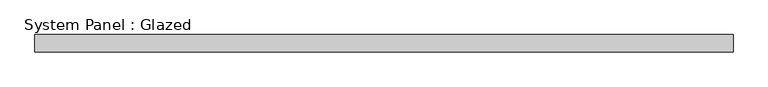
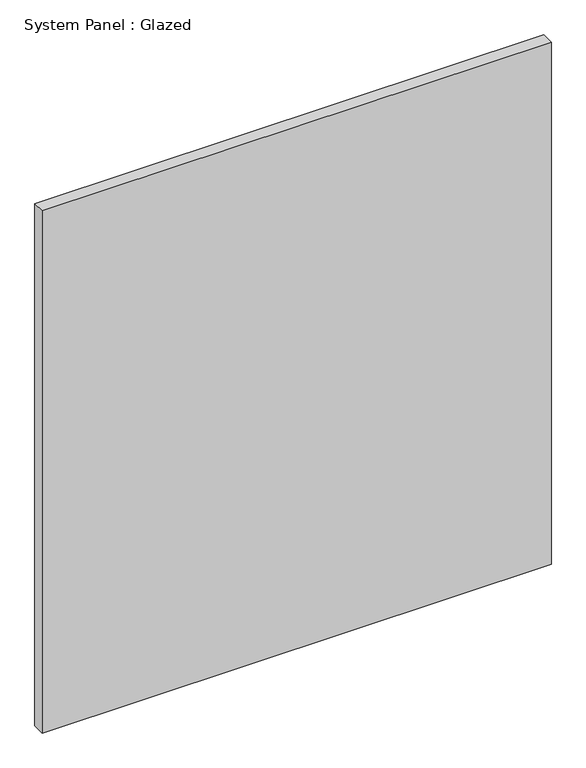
"""IFC4 building model written with IfcOpenShell, lengths in millimetres: plate geometry, System Panel : Glazed."""

from ifc_helpers import new_model, si_unit, origin, origin_with_axes, place, context, project, spatial, polyline, outline, extrude, source, transform, mapped, element, save


def system_panel_glazed_5adabceb(model_context):
    return source(origin(), model_context, "Body", "SweptSolid", [
        extrude(outline(polyline([(518.432143, -44.45), (-518.432143, -44.45), (-518.432143, -19.05), (518.432143, -19.05), (518.432143, -44.45)])), origin_with_axes(), (0.0, 0.0, 1.0), 1123.95),
    ])


if __name__ == "__main__":
    model = new_model("IFC4")
    model_context = context("Model", 3, world=origin())
    ifc_project = project(units=[si_unit("LENGTHUNIT", "METRE", prefix="MILLI")], contexts=[model_context])
    site = spatial("IfcSite", under=ifc_project)
    building = spatial("IfcBuilding", under=site)
    placement = place(None, origin())
    system_panel_glazed_shape = system_panel_glazed_5adabceb(model_context)
    element("IfcPlate", 1, ObjectType="System Panel : Glazed", at=placement, inside=building, context=model_context, shape_type="MappedRepresentation", body=[
        mapped(system_panel_glazed_shape, transform((0.0, 0.0, 0.0), x_axis=(1.0, 0.0, 0.0), y_axis=(0.0, 1.0, 0.0), z_axis=(0.0, 0.0, 1.0))),
    ])
    save(model, "model.ifc")
